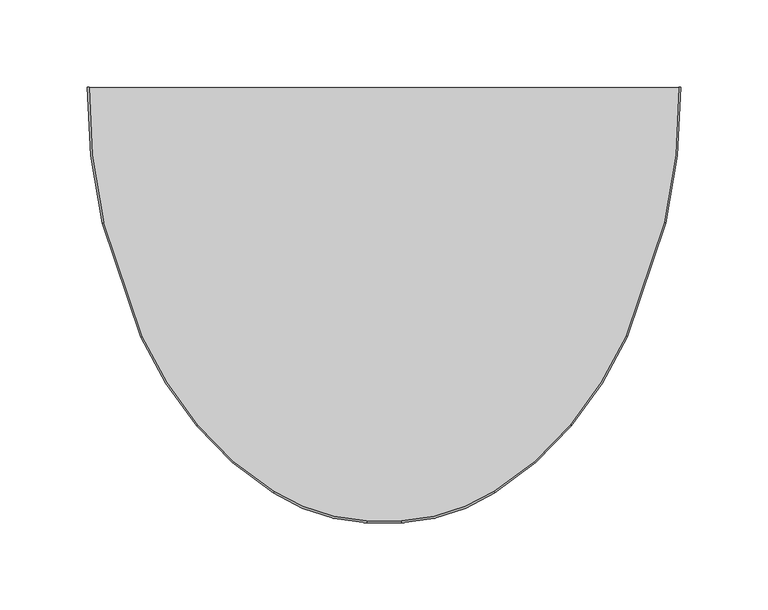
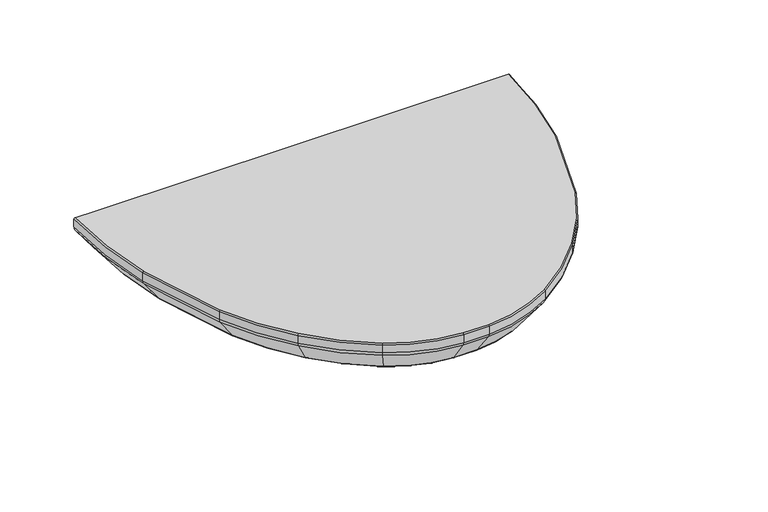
"""IFC4 building model written with IfcOpenShell, lengths in millimetres: furniture geometry, Couchette_1282 : Couchette_1282."""

from ifc_helpers import new_model, si_unit, point, frame, origin, place, context, project, spatial, polyline, circle_curve, ellipse_curve, trimmed, source, transform, mapped, element, save
from ifc_brep_helpers import plane_surface, cylinder_surface, revolved_surface, advanced_brep


def furniture_d83bdb64(model_context):
    return source(origin(), model_context, "Body", "AdvancedBrep", [
        advanced_brep(
        [(-169.9947602, 0.0, 222.7180464), (-169.9947602, 0.0, 229.0), (-168.99479, -0.0077199, 230.0), (-152.4498166, -0.1354493, 230.0), (-152.4498166, -0.1354493, 200.0), (-153.317766, -0.1287486, 200.0), (-154.9222264, -0.1163619, 200.8060346), (-169.0060602, -0.0076329, 219.7331328), (-161.4520377, -77.8736847, 222.7180464), (-161.4520377, -77.8736847, 229.0), (-160.4775222, -77.6493642, 230.0), (-138.4947355, -142.7877662, 230.0), (-106.639304, -193.598834, 230.0), (-63.0039631, -231.7793866, 230.0), (-9.9401412, -248.7217415, 230.0), (9.9401412, -248.7217415, 230.0), (63.0039631, -231.7793866, 230.0), (106.639304, -193.598834, 230.0), (138.4947355, -142.7877662, 230.0), (160.4775222, -77.6493642, 230.0), (168.99479, -0.0077199, 230.0), (152.4498166, -0.1354493, 230.0), (-139.4058951, -143.1998199, 222.7180464), (-139.4058951, -143.1998199, 229.0), (-107.4071798, -194.2394328, 222.7180464), (-107.4071798, -194.2394328, 229.0), (-63.5369544, -232.6255073, 222.7180464), (-63.5369544, -232.6255073, 229.0), (-9.9960841, -249.7201755, 222.7180464), (-9.9960841, -249.7201755, 229.0), (9.9960841, -249.7201755, 222.7180464), (9.9960841, -249.7201755, 229.0), (63.5369544, -232.6255073, 222.7180464), (63.5369544, -232.6255073, 229.0), (107.4071798, -194.2394328, 222.7180464), (107.4071798, -194.2394328, 229.0), (139.4058951, -143.1998199, 222.7180464), (139.4058951, -143.1998199, 229.0), (161.4520377, -77.8736847, 222.7180464), (161.4520377, -77.8736847, 229.0), (169.9947602, 0.0, 229.0), (169.9947602, 0.0, 222.7180464), (169.0060602, -0.0076329, 219.7331328), (154.9222264, -0.1163619, 200.8060346), (153.317766, -0.1287486, 200.0), (152.4498166, -0.1354493, 200.0), (145.199565, -74.1325823, 200.0), (124.2100391, -136.3277988, 200.0), (94.6009387, -183.5558518, 200.0), (54.6479976, -218.5143358, 200.0), (9.0630955, -233.0688018, 200.0), (-9.0630955, -233.0688018, 200.0), (-54.6479976, -218.5143358, 200.0), (-94.6009387, -183.5558518, 200.0), (-124.2100391, -136.3277988, 200.0), (-145.199565, -74.1325823, 200.0), (-146.7631831, -74.4925063, 200.8060346), (-160.4885055, -77.6518924, 219.7331328), (-125.6720021, -136.9889423, 200.8060346), (-138.5050048, -142.7924103, 219.7331328), (-95.8330017, -184.5836978, 200.8060346), (-106.6479584, -193.6060539, 219.7331328), (-55.5031865, -219.8719435, 200.8060346), (-63.0099702, -231.7889228, 219.7331328), (-9.1528565, -234.6707973, 200.8060346), (-9.9407717, -248.7329944, 219.7331328), (9.1528565, -234.6707973, 200.8060346), (9.9407717, -248.7329944, 219.7331328), (55.5031865, -219.8719435, 200.8060346), (63.0099702, -231.7889228, 219.7331328), (95.8330017, -184.5836978, 200.8060346), (106.6479584, -193.6060539, 219.7331328), (125.6720021, -136.9889423, 200.8060346), (138.5050048, -142.7924103, 219.7331328), (146.7631831, -74.4925063, 200.8060346), (160.4885055, -77.6518924, 219.7331328)],
        [
            (0, 1),
            (1, 2, circle_curve(frame((-168.99479, -0.0077199, 229.0), z_axis=(0.00771990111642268, 0.9999702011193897, 0.0), x_axis=(0.9999702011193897, -0.00771990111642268, 0.0)), 1.0)),
            (2, 3),
            (3, 4),
            (4, 5),
            (5, 6, circle_curve(frame((-153.317766, -0.1287486, 202.0), z_axis=(0.00771990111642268, 0.9999702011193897, 0.0), x_axis=(0.9999702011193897, -0.00771990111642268, 0.0)), 2.0)),
            (6, 7),
            (7, 0, circle_curve(frame((-164.9949092, -0.0385995, 222.7180464), z_axis=(0.00771990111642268, 0.9999702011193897, 0.0), x_axis=(0.9999702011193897, -0.00771990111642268, 0.0)), 5.0)),
            (0, 8, circle_curve(frame((165.5992993, -2.5908302, 222.7180464), z_axis=(0.0, 0.0, 1.0), x_axis=(-0.9999702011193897, 0.007719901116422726, 0.0)), 335.6040602)),
            (8, 9),
            (9, 1, circle_curve(frame((165.5992993, -2.5908302, 229.0), z_axis=(0.0, 0.0, -1.0), x_axis=(-0.9999702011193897, 0.007719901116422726, 0.0)), 335.6040602)),
            (9, 10, circle_curve(frame((-160.4775222, -77.6493642, 229.0), z_axis=(-0.22432045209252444, 0.9745154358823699, 0.0), x_axis=(0.9745154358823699, 0.22432045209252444, 0.0)), 1.0)),
            (10, 2, circle_curve(frame((165.5992993, -2.5908302, 230.0), z_axis=(0.0, 0.0, -1.0), x_axis=(-0.9999702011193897, 0.007719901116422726, 0.0)), 334.6040602)),
            (10, 11, circle_curve(frame((177.6532949, 0.1838388, 230.0), z_axis=(0.0, 0.0, 1.0), x_axis=(-0.97451543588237, -0.22432045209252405, 0.0)), 346.97328)),
            (11, 12, circle_curve(frame((64.0778814, -51.1783637, 230.0), z_axis=(0.0, 0.0, 1.0), x_axis=(-0.9111595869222, -0.41205364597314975, 0.0)), 222.3239703)),
            (12, 13, circle_curve(frame((36.011738, -74.5924877, 230.0), z_axis=(0.0, 0.0, 1.0), x_axis=(-0.767875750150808, -0.6405988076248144, 0.0)), 185.7735995)),
            (13, 14, circle_curve(frame((-3.7173984, -137.6622803, 230.0), z_axis=(0.0, 0.0, 1.0), x_axis=(-0.5329912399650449, -0.8461207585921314, 0.0)), 111.233657)),
            (14, 15, circle_curve(frame((0.0, -71.3165753, 230.0), z_axis=(0.0, 0.0, 1.0), x_axis=(-0.055942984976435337, -0.9984339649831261, 0.0)), 177.6834247)),
            (15, 16, circle_curve(frame((3.7173984, -137.6622803, 230.0), z_axis=(0.0, 0.0, 1.0), x_axis=(0.05594298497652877, -0.9984339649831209, 0.0)), 111.233657)),
            (16, 17, circle_curve(frame((-36.011738, -74.5924877, 230.0), z_axis=(0.0, 0.0, 1.0), x_axis=(0.5329912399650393, -0.846120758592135, 0.0)), 185.7735995)),
            (17, 18, circle_curve(frame((-64.0778814, -51.1783637, 230.0), z_axis=(0.0, 0.0, 1.0), x_axis=(0.767875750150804, -0.6405988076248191, 0.0)), 222.3239703)),
            (18, 19, circle_curve(frame((-177.6532949, 0.1838388, 230.0), z_axis=(0.0, 0.0, 1.0), x_axis=(0.9111595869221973, -0.41205364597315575, 0.0)), 346.97328)),
            (19, 20, circle_curve(frame((-165.5992993, -2.5908302, 230.0), z_axis=(0.0, 0.0, 1.0), x_axis=(0.9745154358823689, -0.22432045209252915, 0.0)), 334.6040602)),
            (20, 21),
            (21, 3),
            (8, 22, circle_curve(frame((177.6532949, 0.1838388, 222.7180464), z_axis=(0.0, 0.0, 1.0), x_axis=(-0.97451543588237, -0.22432045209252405, 0.0)), 347.97328)),
            (22, 23),
            (23, 9, circle_curve(frame((177.6532949, 0.1838388, 229.0), z_axis=(0.0, 0.0, -1.0), x_axis=(-0.97451543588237, -0.22432045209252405, 0.0)), 347.97328)),
            (23, 11, circle_curve(frame((-138.4947355, -142.7877662, 229.0), z_axis=(-0.41205364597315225, 0.9111595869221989, 0.0), x_axis=(0.9111595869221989, 0.41205364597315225, 0.0)), 1.0)),
            (22, 24, circle_curve(frame((64.0778814, -51.1783637, 222.7180464), z_axis=(0.0, 0.0, 1.0), x_axis=(-0.9111595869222, -0.41205364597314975, 0.0)), 223.3239703)),
            (24, 25),
            (25, 23, circle_curve(frame((64.0778814, -51.1783637, 229.0), z_axis=(0.0, 0.0, -1.0), x_axis=(-0.9111595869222, -0.41205364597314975, 0.0)), 223.3239703)),
            (25, 12, circle_curve(frame((-106.639304, -193.598834, 229.0), z_axis=(-0.6405988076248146, 0.7678757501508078, 0.0), x_axis=(0.7678757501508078, 0.6405988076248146, 0.0)), 1.0)),
            (24, 26, circle_curve(frame((36.011738, -74.5924877, 222.7180464), z_axis=(0.0, 0.0, 1.0), x_axis=(-0.767875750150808, -0.6405988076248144, 0.0)), 186.7735995)),
            (26, 27),
            (27, 25, circle_curve(frame((36.011738, -74.5924877, 229.0), z_axis=(0.0, 0.0, -1.0), x_axis=(-0.767875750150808, -0.6405988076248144, 0.0)), 186.7735995)),
            (27, 13, circle_curve(frame((-63.0039631, -231.7793866, 229.0), z_axis=(-0.8461207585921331, 0.5329912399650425, 0.0), x_axis=(0.5329912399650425, 0.8461207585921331, 0.0)), 1.0)),
            (26, 28, circle_curve(frame((-3.7173984, -137.6622803, 222.7180464), z_axis=(0.0, 0.0, 1.0), x_axis=(-0.5329912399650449, -0.8461207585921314, 0.0)), 112.233657)),
            (28, 29),
            (29, 27, circle_curve(frame((-3.7173984, -137.6622803, 229.0), z_axis=(0.0, 0.0, -1.0), x_axis=(-0.5329912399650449, -0.8461207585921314, 0.0)), 112.233657)),
            (29, 14, circle_curve(frame((-9.9401412, -248.7217415, 229.0), z_axis=(-0.9984339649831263, 0.055942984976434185, 0.0), x_axis=(0.055942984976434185, 0.9984339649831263, 0.0)), 1.0)),
            (28, 30, circle_curve(frame((0.0, -71.3165753, 222.7180464), z_axis=(0.0, 0.0, 1.0), x_axis=(-0.055942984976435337, -0.9984339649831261, 0.0)), 178.6834247)),
            (30, 31),
            (31, 29, circle_curve(frame((0.0, -71.3165753, 229.0), z_axis=(0.0, 0.0, -1.0), x_axis=(-0.055942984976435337, -0.9984339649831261, 0.0)), 178.6834247)),
            (31, 15, circle_curve(frame((9.9401412, -248.7217415, 229.0), z_axis=(-0.9984339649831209, -0.05594298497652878, 0.0), x_axis=(-0.05594298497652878, 0.9984339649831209, 0.0)), 1.0)),
            (30, 32, circle_curve(frame((3.7173984, -137.6622803, 222.7180464), z_axis=(0.0, 0.0, 1.0), x_axis=(0.05594298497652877, -0.9984339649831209, 0.0)), 112.233657)),
            (32, 33),
            (33, 31, circle_curve(frame((3.7173984, -137.6622803, 229.0), z_axis=(0.0, 0.0, -1.0), x_axis=(0.05594298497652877, -0.9984339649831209, 0.0)), 112.233657)),
            (33, 16, circle_curve(frame((63.0039631, -231.7793866, 229.0), z_axis=(-0.8461207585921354, -0.5329912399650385, 0.0), x_axis=(-0.5329912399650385, 0.8461207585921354, 0.0)), 1.0)),
            (32, 34, circle_curve(frame((-36.011738, -74.5924877, 222.7180464), z_axis=(0.0, 0.0, 1.0), x_axis=(0.5329912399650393, -0.846120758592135, 0.0)), 186.7735995)),
            (34, 35),
            (35, 33, circle_curve(frame((-36.011738, -74.5924877, 229.0), z_axis=(0.0, 0.0, -1.0), x_axis=(0.5329912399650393, -0.846120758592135, 0.0)), 186.7735995)),
            (35, 17, circle_curve(frame((106.639304, -193.598834, 229.0), z_axis=(-0.6405988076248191, -0.7678757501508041, 0.0), x_axis=(-0.7678757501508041, 0.6405988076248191, 0.0)), 1.0)),
            (34, 36, circle_curve(frame((-64.0778814, -51.1783637, 222.7180464), z_axis=(0.0, 0.0, 1.0), x_axis=(0.767875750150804, -0.6405988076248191, 0.0)), 223.3239703)),
            (36, 37),
            (37, 35, circle_curve(frame((-64.0778814, -51.1783637, 229.0), z_axis=(0.0, 0.0, -1.0), x_axis=(0.767875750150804, -0.6405988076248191, 0.0)), 223.3239703)),
            (37, 18, circle_curve(frame((138.4947355, -142.7877662, 229.0), z_axis=(-0.41205364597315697, -0.9111595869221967, 0.0), x_axis=(-0.9111595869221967, 0.41205364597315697, 0.0)), 1.0)),
            (36, 38, circle_curve(frame((-177.6532949, 0.1838388, 222.7180464), z_axis=(0.0, 0.0, 1.0), x_axis=(0.9111595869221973, -0.41205364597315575, 0.0)), 347.97328)),
            (38, 39),
            (39, 37, circle_curve(frame((-177.6532949, 0.1838388, 229.0), z_axis=(0.0, 0.0, -1.0), x_axis=(0.9111595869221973, -0.41205364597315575, 0.0)), 347.97328)),
            (39, 19, circle_curve(frame((160.4775222, -77.6493642, 229.0), z_axis=(-0.22432045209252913, -0.9745154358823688, 0.0), x_axis=(-0.9745154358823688, 0.22432045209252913, 0.0)), 1.0)),
            (20, 40, circle_curve(frame((168.99479, -0.0077199, 229.0), z_axis=(-0.007719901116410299, 0.9999702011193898, 0.0), x_axis=(-0.9999702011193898, -0.007719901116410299, 0.0)), 1.0)),
            (40, 41),
            (41, 42, circle_curve(frame((164.9949092, -0.0385995, 222.7180464), z_axis=(-0.007719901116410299, 0.9999702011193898, 0.0), x_axis=(-0.9999702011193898, -0.007719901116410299, 0.0)), 5.0)),
            (42, 43),
            (43, 44, circle_curve(frame((153.317766, -0.1287486, 202.0), z_axis=(-0.007719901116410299, 0.9999702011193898, 0.0), x_axis=(-0.9999702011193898, -0.007719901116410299, 0.0)), 2.0)),
            (44, 45),
            (45, 21),
            (38, 41, circle_curve(frame((-165.5992993, -2.5908302, 222.7180464), z_axis=(0.0, 0.0, 1.0), x_axis=(0.9745154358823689, -0.22432045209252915, 0.0)), 335.6040602)),
            (40, 39, circle_curve(frame((-165.5992993, -2.5908302, 229.0), z_axis=(0.0, 0.0, -1.0), x_axis=(0.9745154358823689, -0.22432045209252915, 0.0)), 335.6040602)),
            (4, 45),
            (44, 46, circle_curve(frame((-165.5992993, -2.5908302, 200.0), z_axis=(0.0, 0.0, -1.0), x_axis=(0.9745154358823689, -0.22432045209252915, 0.0)), 318.926569)),
            (46, 47, circle_curve(frame((-177.6532949, 0.1838388, 200.0), z_axis=(0.0, 0.0, -1.0), x_axis=(0.9111595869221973, -0.41205364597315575, 0.0)), 331.2957887)),
            (47, 48, circle_curve(frame((-64.0778814, -51.1783637, 200.0), z_axis=(0.0, 0.0, -1.0), x_axis=(0.767875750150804, -0.6405988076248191, 0.0)), 206.6464791)),
            (48, 49, circle_curve(frame((-36.011738, -74.5924877, 200.0), z_axis=(0.0, 0.0, -1.0), x_axis=(0.5329912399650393, -0.846120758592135, 0.0)), 170.0961082)),
            (49, 50, circle_curve(frame((3.7173984, -137.6622803, 200.0), z_axis=(0.0, 0.0, -1.0), x_axis=(0.05594298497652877, -0.9984339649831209, 0.0)), 95.5561658)),
            (50, 51, circle_curve(frame((0.0, -71.3165753, 200.0), z_axis=(0.0, 0.0, -1.0), x_axis=(-0.055942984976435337, -0.9984339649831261, 0.0)), 162.0059335)),
            (51, 52, circle_curve(frame((-3.7173984, -137.6622803, 200.0), z_axis=(0.0, 0.0, -1.0), x_axis=(-0.5329912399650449, -0.8461207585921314, 0.0)), 95.5561658)),
            (52, 53, circle_curve(frame((36.011738, -74.5924877, 200.0), z_axis=(0.0, 0.0, -1.0), x_axis=(-0.767875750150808, -0.6405988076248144, 0.0)), 170.0961082)),
            (53, 54, circle_curve(frame((64.0778814, -51.1783637, 200.0), z_axis=(0.0, 0.0, -1.0), x_axis=(-0.9111595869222, -0.41205364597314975, 0.0)), 206.6464791)),
            (54, 55, circle_curve(frame((177.6532949, 0.1838388, 200.0), z_axis=(0.0, 0.0, -1.0), x_axis=(-0.97451543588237, -0.22432045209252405, 0.0)), 331.2957887)),
            (55, 5, circle_curve(frame((165.5992993, -2.5908302, 200.0), z_axis=(0.0, 0.0, -1.0), x_axis=(-0.9999702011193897, 0.007719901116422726, 0.0)), 318.926569)),
            (55, 56, circle_curve(frame((-145.199565, -74.1325823, 202.0), z_axis=(-0.2243204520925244, 0.9745154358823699, 0.0), x_axis=(0.9745154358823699, 0.2243204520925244, 0.0)), 2.0)),
            (56, 6, circle_curve(frame((165.5992993, -2.5908302, 200.8060346), z_axis=(0.0, 0.0, -1.0), x_axis=(-0.9999702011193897, 0.007719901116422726, 0.0)), 320.5310772)),
            (56, 57),
            (57, 7, circle_curve(frame((165.5992993, -2.5908302, 219.7331328), z_axis=(0.0, 0.0, -1.0), x_axis=(-0.9999702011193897, 0.007719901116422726, 0.0)), 334.6153307)),
            (57, 8, circle_curve(frame((-156.5794605, -76.7520824, 222.7180464), z_axis=(-0.2243204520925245, 0.9745154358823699, 0.0), x_axis=(0.9745154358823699, 0.2243204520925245, 0.0)), 5.0)),
            (54, 58, circle_curve(frame((-124.2100391, -136.3277988, 202.0), z_axis=(-0.41205364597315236, 0.9111595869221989, 0.0), x_axis=(0.9111595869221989, 0.41205364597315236, 0.0)), 2.0)),
            (58, 56, circle_curve(frame((177.6532949, 0.1838388, 200.8060346), z_axis=(0.0, 0.0, -1.0), x_axis=(-0.97451543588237, -0.22432045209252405, 0.0)), 332.900297)),
            (58, 59),
            (59, 57, circle_curve(frame((177.6532949, 0.1838388, 219.7331328), z_axis=(0.0, 0.0, -1.0), x_axis=(-0.97451543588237, -0.22432045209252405, 0.0)), 346.9845505)),
            (59, 22, circle_curve(frame((-134.8500972, -141.1395517, 222.7180464), z_axis=(-0.4120536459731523, 0.9111595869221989, 0.0), x_axis=(0.9111595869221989, 0.4120536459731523, 0.0)), 5.0)),
            (53, 60, circle_curve(frame((-94.6009387, -183.5558518, 202.0), z_axis=(-0.6405988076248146, 0.7678757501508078, 0.0), x_axis=(0.7678757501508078, 0.6405988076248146, 0.0)), 2.0)),
            (60, 58, circle_curve(frame((64.0778814, -51.1783637, 200.8060346), z_axis=(0.0, 0.0, -1.0), x_axis=(-0.9111595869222, -0.41205364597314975, 0.0)), 208.2509873)),
            (60, 61),
            (61, 59, circle_curve(frame((64.0778814, -51.1783637, 219.7331328), z_axis=(0.0, 0.0, -1.0), x_axis=(-0.9111595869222, -0.41205364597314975, 0.0)), 222.3352409)),
            (61, 24, circle_curve(frame((-103.567801, -191.0364388, 222.7180464), z_axis=(-0.6405988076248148, 0.7678757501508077, 0.0), x_axis=(0.7678757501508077, 0.6405988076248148, 0.0)), 5.0)),
            (52, 62, circle_curve(frame((-54.6479976, -218.5143358, 202.0), z_axis=(-0.8461207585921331, 0.5329912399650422, 0.0), x_axis=(0.5329912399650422, 0.8461207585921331, 0.0)), 2.0)),
            (62, 60, circle_curve(frame((36.011738, -74.5924877, 200.8060346), z_axis=(0.0, 0.0, -1.0), x_axis=(-0.767875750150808, -0.6405988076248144, 0.0)), 171.7006164)),
            (62, 63),
            (63, 61, circle_curve(frame((36.011738, -74.5924877, 219.7331328), z_axis=(0.0, 0.0, -1.0), x_axis=(-0.767875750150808, -0.6405988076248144, 0.0)), 185.78487)),
            (63, 26, circle_curve(frame((-60.8719982, -228.3949035, 222.7180464), z_axis=(-0.8461207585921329, 0.5329912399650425, 0.0), x_axis=(0.5329912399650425, 0.8461207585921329, 0.0)), 5.0)),
            (51, 64, circle_curve(frame((-9.0630955, -233.0688018, 202.0), z_axis=(-0.9984339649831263, 0.055942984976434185, 0.0), x_axis=(0.055942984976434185, 0.9984339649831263, 0.0)), 2.0)),
            (64, 62, circle_curve(frame((-3.7173984, -137.6622803, 200.8060346), z_axis=(0.0, 0.0, -1.0), x_axis=(-0.5329912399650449, -0.8461207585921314, 0.0)), 97.160674)),
            (64, 65),
            (65, 63, circle_curve(frame((-3.7173984, -137.6622803, 219.7331328), z_axis=(0.0, 0.0, -1.0), x_axis=(-0.5329912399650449, -0.8461207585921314, 0.0)), 111.2449275)),
            (65, 28, circle_curve(frame((-9.7163692, -244.7280057, 222.7180464), z_axis=(-0.9984339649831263, 0.055942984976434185, 0.0), x_axis=(0.055942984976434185, 0.9984339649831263, 0.0)), 5.0)),
            (50, 66, circle_curve(frame((9.0630955, -233.0688018, 202.0), z_axis=(-0.9984339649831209, -0.05594298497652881, 0.0), x_axis=(-0.05594298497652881, 0.9984339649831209, 0.0)), 2.0)),
            (66, 64, circle_curve(frame((0.0, -71.3165753, 200.8060346), z_axis=(0.0, 0.0, -1.0), x_axis=(-0.055942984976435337, -0.9984339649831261, 0.0)), 163.6104417)),
            (66, 67),
            (67, 65, circle_curve(frame((0.0, -71.3165753, 219.7331328), z_axis=(0.0, 0.0, -1.0), x_axis=(-0.055942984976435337, -0.9984339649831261, 0.0)), 177.6946953)),
            (67, 30, circle_curve(frame((9.7163692, -244.7280057, 222.7180464), z_axis=(-0.9984339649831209, -0.055942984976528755, 0.0), x_axis=(-0.055942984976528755, 0.9984339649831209, 0.0)), 5.0)),
            (49, 68, circle_curve(frame((54.6479976, -218.5143358, 202.0), z_axis=(-0.8461207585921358, -0.5329912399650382, 0.0), x_axis=(-0.5329912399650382, 0.8461207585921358, 0.0)), 2.0)),
            (68, 66, circle_curve(frame((3.7173984, -137.6622803, 200.8060346), z_axis=(0.0, 0.0, -1.0), x_axis=(0.05594298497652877, -0.9984339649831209, 0.0)), 97.160674)),
            (68, 69),
            (69, 67, circle_curve(frame((3.7173984, -137.6622803, 219.7331328), z_axis=(0.0, 0.0, -1.0), x_axis=(0.05594298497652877, -0.9984339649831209, 0.0)), 111.2449275)),
            (69, 32, circle_curve(frame((60.8719982, -228.3949035, 222.7180464), z_axis=(-0.8461207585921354, -0.5329912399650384, 0.0), x_axis=(-0.5329912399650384, 0.8461207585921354, 0.0)), 5.0)),
            (48, 70, circle_curve(frame((94.6009387, -183.5558518, 202.0), z_axis=(-0.6405988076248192, -0.767875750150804, 0.0), x_axis=(-0.767875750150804, 0.6405988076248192, 0.0)), 2.0)),
            (70, 68, circle_curve(frame((-36.011738, -74.5924877, 200.8060346), z_axis=(0.0, 0.0, -1.0), x_axis=(0.5329912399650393, -0.846120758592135, 0.0)), 171.7006164)),
            (70, 71),
            (71, 69, circle_curve(frame((-36.011738, -74.5924877, 219.7331328), z_axis=(0.0, 0.0, -1.0), x_axis=(0.5329912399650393, -0.846120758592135, 0.0)), 185.78487)),
            (71, 34, circle_curve(frame((103.567801, -191.0364388, 222.7180464), z_axis=(-0.640598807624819, -0.767875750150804, 0.0), x_axis=(-0.767875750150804, 0.640598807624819, 0.0)), 5.0)),
            (47, 72, circle_curve(frame((124.2100391, -136.3277988, 202.0), z_axis=(-0.4120536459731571, -0.9111595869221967, 0.0), x_axis=(-0.9111595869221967, 0.4120536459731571, 0.0)), 2.0)),
            (72, 70, circle_curve(frame((-64.0778814, -51.1783637, 200.8060346), z_axis=(0.0, 0.0, -1.0), x_axis=(0.767875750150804, -0.6405988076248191, 0.0)), 208.2509873)),
            (72, 73),
            (73, 71, circle_curve(frame((-64.0778814, -51.1783637, 219.7331328), z_axis=(0.0, 0.0, -1.0), x_axis=(0.767875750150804, -0.6405988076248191, 0.0)), 222.3352409)),
            (73, 36, circle_curve(frame((134.8500972, -141.1395517, 222.7180464), z_axis=(-0.41205364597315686, -0.9111595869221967, 0.0), x_axis=(-0.9111595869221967, 0.41205364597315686, 0.0)), 5.0)),
            (46, 74, circle_curve(frame((145.199565, -74.1325823, 202.0), z_axis=(-0.22432045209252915, -0.9745154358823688, 0.0), x_axis=(-0.9745154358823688, 0.22432045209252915, 0.0)), 2.0)),
            (74, 72, circle_curve(frame((-177.6532949, 0.1838388, 200.8060346), z_axis=(0.0, 0.0, -1.0), x_axis=(0.9111595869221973, -0.41205364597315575, 0.0)), 332.900297)),
            (74, 75),
            (75, 73, circle_curve(frame((-177.6532949, 0.1838388, 219.7331328), z_axis=(0.0, 0.0, -1.0), x_axis=(0.9111595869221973, -0.41205364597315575, 0.0)), 346.9845505)),
            (75, 38, circle_curve(frame((156.5794605, -76.7520824, 222.7180464), z_axis=(-0.22432045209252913, -0.9745154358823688, 0.0), x_axis=(-0.9745154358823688, 0.22432045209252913, 0.0)), 5.0)),
            (43, 74, circle_curve(frame((-165.5992993, -2.5908302, 200.8060346), z_axis=(0.0, 0.0, -1.0), x_axis=(0.9745154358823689, -0.22432045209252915, 0.0)), 320.5310772)),
            (42, 75, circle_curve(frame((-165.5992993, -2.5908302, 219.7331328), z_axis=(0.0, 0.0, -1.0), x_axis=(0.9745154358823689, -0.22432045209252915, 0.0)), 334.6153307)),
        ],
        [
            plane_surface(frame((-169.9947602, 0.0, 230.0), z_axis=(0.00771990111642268, 0.9999702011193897, 0.0), x_axis=(0.0, 0.0, 1.0))),
            cylinder_surface(frame((165.5992993, -2.5908302, 230.0), z_axis=(0.0, 0.0, 1.0), x_axis=(-0.9999702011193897, 0.007719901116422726, 0.0)), 335.6040602),
            revolved_surface(trimmed(ellipse_curve(frame((-168.99479, -0.0077199, 229.0), z_axis=(0.00771990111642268, 0.9999702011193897, 0.0), x_axis=(0.9999702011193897, -0.00771990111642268, 0.0)), 1.0, 1.0), [point((-169.9947602, 0.0, 229.0))], [point((-168.99479, -0.0077199, 230.0))], True, "CARTESIAN"), (165.5992993, -2.5908302, 230.0), (0.0, 0.0, 1.0)),
            plane_surface(frame((165.5992993, -2.5908302, 230.0), z_axis=(0.0, 0.0, 1.0), x_axis=(-0.9999702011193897, 0.007719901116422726, 0.0))),
            cylinder_surface(frame((177.6532949, 0.1838388, 230.0), z_axis=(0.0, 0.0, 1.0), x_axis=(-0.97451543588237, -0.22432045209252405, 0.0)), 347.97328),
            revolved_surface(trimmed(ellipse_curve(frame((-160.4775222, -77.6493642, 229.0), z_axis=(-0.22432045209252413, 0.97451543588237, 0.0), x_axis=(0.97451543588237, 0.22432045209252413, 0.0)), 1.0, 1.0), [point((-161.4520377, -77.8736847, 229.0))], [point((-160.4775222, -77.6493642, 230.0))], True, "CARTESIAN"), (177.6532949, 0.1838388, 230.0), (0.0, 0.0, 1.0)),
            cylinder_surface(frame((64.0778814, -51.1783637, 230.0), z_axis=(0.0, 0.0, 1.0), x_axis=(-0.9111595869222, -0.41205364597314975, 0.0)), 223.3239703),
            revolved_surface(trimmed(ellipse_curve(frame((-138.4947355, -142.7877662, 229.0), z_axis=(-0.4120536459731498, 0.9111595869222, 0.0), x_axis=(0.9111595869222, 0.4120536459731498, 0.0)), 1.0, 1.0), [point((-139.4058951, -143.1998199, 229.0))], [point((-138.4947355, -142.7877662, 230.0))], True, "CARTESIAN"), (64.0778814, -51.1783637, 230.0), (0.0, 0.0, 1.0)),
            cylinder_surface(frame((36.011738, -74.5924877, 230.0), z_axis=(0.0, 0.0, 1.0), x_axis=(-0.767875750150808, -0.6405988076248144, 0.0)), 186.7735995),
            revolved_surface(trimmed(ellipse_curve(frame((-106.639304, -193.598834, 229.0), z_axis=(-0.6405988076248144, 0.767875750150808, 0.0), x_axis=(0.767875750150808, 0.6405988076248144, 0.0)), 1.0, 1.0), [point((-107.4071798, -194.2394328, 229.0))], [point((-106.639304, -193.598834, 230.0))], True, "CARTESIAN"), (36.011738, -74.5924877, 230.0), (0.0, 0.0, 1.0)),
            cylinder_surface(frame((-3.7173984, -137.6622803, 230.0), z_axis=(0.0, 0.0, 1.0), x_axis=(-0.5329912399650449, -0.8461207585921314, 0.0)), 112.233657),
            revolved_surface(trimmed(ellipse_curve(frame((-63.0039631, -231.7793866, 229.0), z_axis=(-0.8461207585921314, 0.5329912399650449, 0.0), x_axis=(0.5329912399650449, 0.8461207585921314, 0.0)), 1.0, 1.0), [point((-63.5369544, -232.6255073, 229.0))], [point((-63.0039631, -231.7793866, 230.0))], True, "CARTESIAN"), (-3.7173984, -137.6622803, 230.0), (0.0, 0.0, 1.0)),
            cylinder_surface(frame((0.0, -71.3165753, 230.0), z_axis=(0.0, 0.0, 1.0), x_axis=(-0.055942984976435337, -0.9984339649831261, 0.0)), 178.6834247),
            revolved_surface(trimmed(ellipse_curve(frame((-9.9401412, -248.7217415, 229.0), z_axis=(-0.9984339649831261, 0.055942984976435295, 0.0), x_axis=(0.055942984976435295, 0.9984339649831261, 0.0)), 1.0, 1.0), [point((-9.9960841, -249.7201755, 229.0))], [point((-9.9401412, -248.7217415, 230.0))], True, "CARTESIAN"), (0.0, -71.3165753, 230.0), (0.0, 0.0, 1.0)),
            cylinder_surface(frame((3.7173984, -137.6622803, 230.0), z_axis=(0.0, 0.0, 1.0), x_axis=(0.05594298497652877, -0.9984339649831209, 0.0)), 112.233657),
            revolved_surface(trimmed(ellipse_curve(frame((9.9401412, -248.7217415, 229.0), z_axis=(-0.9984339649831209, -0.05594298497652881, 0.0), x_axis=(-0.05594298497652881, 0.9984339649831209, 0.0)), 1.0, 1.0), [point((9.9960841, -249.7201755, 229.0))], [point((9.9401412, -248.7217415, 230.0))], True, "CARTESIAN"), (3.7173984, -137.6622803, 230.0), (0.0, 0.0, 1.0)),
            cylinder_surface(frame((-36.011738, -74.5924877, 230.0), z_axis=(0.0, 0.0, 1.0), x_axis=(0.5329912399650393, -0.846120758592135, 0.0)), 186.7735995),
            revolved_surface(trimmed(ellipse_curve(frame((63.0039631, -231.7793866, 229.0), z_axis=(-0.846120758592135, -0.5329912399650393, 0.0), x_axis=(-0.5329912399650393, 0.846120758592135, 0.0)), 1.0, 1.0), [point((63.5369544, -232.6255073, 229.0))], [point((63.0039631, -231.7793866, 230.0))], True, "CARTESIAN"), (-36.011738, -74.5924877, 230.0), (0.0, 0.0, 1.0)),
            cylinder_surface(frame((-64.0778814, -51.1783637, 230.0), z_axis=(0.0, 0.0, 1.0), x_axis=(0.767875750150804, -0.6405988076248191, 0.0)), 223.3239703),
            revolved_surface(trimmed(ellipse_curve(frame((106.639304, -193.598834, 229.0), z_axis=(-0.6405988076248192, -0.7678757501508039, 0.0), x_axis=(-0.7678757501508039, 0.6405988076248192, 0.0)), 1.0, 1.0), [point((107.4071798, -194.2394328, 229.0))], [point((106.639304, -193.598834, 230.0))], True, "CARTESIAN"), (-64.0778814, -51.1783637, 230.0), (0.0, 0.0, 1.0)),
            cylinder_surface(frame((-177.6532949, 0.1838388, 230.0), z_axis=(0.0, 0.0, 1.0), x_axis=(0.9111595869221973, -0.41205364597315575, 0.0)), 347.97328),
            revolved_surface(trimmed(ellipse_curve(frame((138.4947355, -142.7877662, 229.0), z_axis=(-0.41205364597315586, -0.9111595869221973, 0.0), x_axis=(-0.9111595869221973, 0.41205364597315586, 0.0)), 1.0, 1.0), [point((139.4058951, -143.1998199, 229.0))], [point((138.4947355, -142.7877662, 230.0))], True, "CARTESIAN"), (-177.6532949, 0.1838388, 230.0), (0.0, 0.0, 1.0)),
            plane_surface(frame((169.9947602, 0.0, 230.0), z_axis=(-0.007719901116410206, 0.9999702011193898, 0.0), x_axis=(0.0, 0.0, 1.0))),
            cylinder_surface(frame((-165.5992993, -2.5908302, 230.0), z_axis=(0.0, 0.0, 1.0), x_axis=(0.9745154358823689, -0.22432045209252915, 0.0)), 335.6040602),
            revolved_surface(trimmed(ellipse_curve(frame((160.4775222, -77.6493642, 229.0), z_axis=(-0.22432045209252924, -0.9745154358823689, 0.0), x_axis=(-0.9745154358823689, 0.22432045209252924, 0.0)), 1.0, 1.0), [point((161.4520377, -77.8736847, 229.0))], [point((160.4775222, -77.6493642, 230.0))], True, "CARTESIAN"), (-165.5992993, -2.5908302, 230.0), (0.0, 0.0, 1.0)),
            plane_surface(frame((165.5992993, -2.5908302, 200.0), z_axis=(0.0, 0.0, -1.0), x_axis=(-0.9999702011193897, 0.007719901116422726, 0.0))),
            revolved_surface(trimmed(ellipse_curve(frame((-153.317766, -0.1287486, 202.0), z_axis=(0.00771990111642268, 0.9999702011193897, 0.0), x_axis=(0.9999702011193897, -0.00771990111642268, 0.0)), 2.0, 2.0), [point((-153.317766, -0.1287486, 200.0))], [point((-154.9222264, -0.1163619, 200.8060346))], True, "CARTESIAN"), (165.5992993, -2.5908302, 230.0), (0.0, 0.0, 1.0)),
            revolved_surface(polyline([(-154.9222264, -0.1163619, 200.8060346), (-169.0060602, -0.0076329, 219.7331328)]), (165.5992993, -2.5908302, 230.0), (0.0, 0.0, 1.0)),
            revolved_surface(trimmed(ellipse_curve(frame((-164.9949092, -0.0385995, 222.7180464), z_axis=(0.00771990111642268, 0.9999702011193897, 0.0), x_axis=(0.9999702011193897, -0.00771990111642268, 0.0)), 5.0, 5.0), [point((-169.0060602, -0.0076329, 219.7331328))], [point((-169.9947602, 0.0, 222.7180464))], True, "CARTESIAN"), (165.5992993, -2.5908302, 230.0), (0.0, 0.0, 1.0)),
            revolved_surface(trimmed(ellipse_curve(frame((-145.199565, -74.1325823, 202.0), z_axis=(-0.22432045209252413, 0.97451543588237, 0.0), x_axis=(0.97451543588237, 0.22432045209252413, 0.0)), 2.0, 2.0), [point((-145.199565, -74.1325823, 200.0))], [point((-146.7631831, -74.4925063, 200.8060346))], True, "CARTESIAN"), (177.6532949, 0.1838388, 230.0), (0.0, 0.0, 1.0)),
            revolved_surface(polyline([(-146.7631831, -74.4925063, 200.8060346), (-160.4885055, -77.6518924, 219.7331328)]), (177.6532949, 0.1838388, 230.0), (0.0, 0.0, 1.0)),
            revolved_surface(trimmed(ellipse_curve(frame((-156.5794605, -76.7520824, 222.7180464), z_axis=(-0.22432045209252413, 0.97451543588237, 0.0), x_axis=(0.97451543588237, 0.22432045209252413, 0.0)), 5.0, 5.0), [point((-160.4885055, -77.6518924, 219.7331328))], [point((-161.4520377, -77.8736847, 222.7180464))], True, "CARTESIAN"), (177.6532949, 0.1838388, 230.0), (0.0, 0.0, 1.0)),
            revolved_surface(trimmed(ellipse_curve(frame((-124.2100391, -136.3277988, 202.0), z_axis=(-0.4120536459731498, 0.9111595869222, 0.0), x_axis=(0.9111595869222, 0.4120536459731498, 0.0)), 2.0, 2.0), [point((-124.2100391, -136.3277988, 200.0))], [point((-125.6720021, -136.9889423, 200.8060346))], True, "CARTESIAN"), (64.0778814, -51.1783637, 230.0), (0.0, 0.0, 1.0)),
            revolved_surface(polyline([(-125.6720021, -136.9889423, 200.8060346), (-138.5050048, -142.7924103, 219.7331328)]), (64.0778814, -51.1783637, 230.0), (0.0, 0.0, 1.0)),
            revolved_surface(trimmed(ellipse_curve(frame((-134.8500972, -141.1395517, 222.7180464), z_axis=(-0.4120536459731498, 0.9111595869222, 0.0), x_axis=(0.9111595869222, 0.4120536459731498, 0.0)), 5.0, 5.0), [point((-138.5050048, -142.7924103, 219.7331328))], [point((-139.4058951, -143.1998199, 222.7180464))], True, "CARTESIAN"), (64.0778814, -51.1783637, 230.0), (0.0, 0.0, 1.0)),
            revolved_surface(trimmed(ellipse_curve(frame((-94.6009387, -183.5558518, 202.0), z_axis=(-0.6405988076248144, 0.767875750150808, 0.0), x_axis=(0.767875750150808, 0.6405988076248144, 0.0)), 2.0, 2.0), [point((-94.6009387, -183.5558518, 200.0))], [point((-95.8330017, -184.5836978, 200.8060346))], True, "CARTESIAN"), (36.011738, -74.5924877, 230.0), (0.0, 0.0, 1.0)),
            revolved_surface(polyline([(-95.8330017, -184.5836978, 200.8060346), (-106.6479584, -193.6060539, 219.7331328)]), (36.011738, -74.5924877, 230.0), (0.0, 0.0, 1.0)),
            revolved_surface(trimmed(ellipse_curve(frame((-103.567801, -191.0364388, 222.7180464), z_axis=(-0.6405988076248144, 0.767875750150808, 0.0), x_axis=(0.767875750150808, 0.6405988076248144, 0.0)), 5.0, 5.0), [point((-106.6479584, -193.6060539, 219.7331328))], [point((-107.4071798, -194.2394328, 222.7180464))], True, "CARTESIAN"), (36.011738, -74.5924877, 230.0), (0.0, 0.0, 1.0)),
            revolved_surface(trimmed(ellipse_curve(frame((-54.6479976, -218.5143358, 202.0), z_axis=(-0.8461207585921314, 0.5329912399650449, 0.0), x_axis=(0.5329912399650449, 0.8461207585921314, 0.0)), 2.0, 2.0), [point((-54.6479976, -218.5143358, 200.0))], [point((-55.5031865, -219.8719435, 200.8060346))], True, "CARTESIAN"), (-3.7173984, -137.6622803, 230.0), (0.0, 0.0, 1.0)),
            revolved_surface(polyline([(-55.5031865, -219.8719435, 200.8060346), (-63.0099702, -231.7889228, 219.7331328)]), (-3.7173984, -137.6622803, 230.0), (0.0, 0.0, 1.0)),
            revolved_surface(trimmed(ellipse_curve(frame((-60.8719982, -228.3949035, 222.7180464), z_axis=(-0.8461207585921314, 0.5329912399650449, 0.0), x_axis=(0.5329912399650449, 0.8461207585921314, 0.0)), 5.0, 5.0), [point((-63.0099702, -231.7889228, 219.7331328))], [point((-63.5369544, -232.6255073, 222.7180464))], True, "CARTESIAN"), (-3.7173984, -137.6622803, 230.0), (0.0, 0.0, 1.0)),
            revolved_surface(trimmed(ellipse_curve(frame((-9.0630955, -233.0688018, 202.0), z_axis=(-0.9984339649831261, 0.055942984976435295, 0.0), x_axis=(0.055942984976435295, 0.9984339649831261, 0.0)), 2.0, 2.0), [point((-9.0630955, -233.0688018, 200.0))], [point((-9.1528565, -234.6707973, 200.8060346))], True, "CARTESIAN"), (0.0, -71.3165753, 230.0), (0.0, 0.0, 1.0)),
            revolved_surface(polyline([(-9.1528565, -234.6707973, 200.8060346), (-9.9407717, -248.7329944, 219.7331328)]), (0.0, -71.3165753, 230.0), (0.0, 0.0, 1.0)),
            revolved_surface(trimmed(ellipse_curve(frame((-9.7163692, -244.7280057, 222.7180464), z_axis=(-0.9984339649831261, 0.055942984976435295, 0.0), x_axis=(0.055942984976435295, 0.9984339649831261, 0.0)), 5.0, 5.0), [point((-9.9407717, -248.7329944, 219.7331328))], [point((-9.9960841, -249.7201755, 222.7180464))], True, "CARTESIAN"), (0.0, -71.3165753, 230.0), (0.0, 0.0, 1.0)),
            revolved_surface(trimmed(ellipse_curve(frame((9.0630955, -233.0688018, 202.0), z_axis=(-0.9984339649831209, -0.05594298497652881, 0.0), x_axis=(-0.05594298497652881, 0.9984339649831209, 0.0)), 2.0, 2.0), [point((9.0630955, -233.0688018, 200.0))], [point((9.1528565, -234.6707973, 200.8060346))], True, "CARTESIAN"), (3.7173984, -137.6622803, 230.0), (0.0, 0.0, 1.0)),
            revolved_surface(polyline([(9.1528565, -234.6707973, 200.8060346), (9.9407717, -248.7329944, 219.7331328)]), (3.7173984, -137.6622803, 230.0), (0.0, 0.0, 1.0)),
            revolved_surface(trimmed(ellipse_curve(frame((9.7163692, -244.7280057, 222.7180464), z_axis=(-0.9984339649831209, -0.05594298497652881, 0.0), x_axis=(-0.05594298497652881, 0.9984339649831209, 0.0)), 5.0, 5.0), [point((9.9407717, -248.7329944, 219.7331328))], [point((9.9960841, -249.7201755, 222.7180464))], True, "CARTESIAN"), (3.7173984, -137.6622803, 230.0), (0.0, 0.0, 1.0)),
            revolved_surface(trimmed(ellipse_curve(frame((54.6479976, -218.5143358, 202.0), z_axis=(-0.846120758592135, -0.5329912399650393, 0.0), x_axis=(-0.5329912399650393, 0.846120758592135, 0.0)), 2.0, 2.0), [point((54.6479976, -218.5143358, 200.0))], [point((55.5031865, -219.8719435, 200.8060346))], True, "CARTESIAN"), (-36.011738, -74.5924877, 230.0), (0.0, 0.0, 1.0)),
            revolved_surface(polyline([(55.5031865, -219.8719435, 200.8060346), (63.0099702, -231.7889228, 219.7331328)]), (-36.011738, -74.5924877, 230.0), (0.0, 0.0, 1.0)),
            revolved_surface(trimmed(ellipse_curve(frame((60.8719982, -228.3949035, 222.7180464), z_axis=(-0.846120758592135, -0.5329912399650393, 0.0), x_axis=(-0.5329912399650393, 0.846120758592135, 0.0)), 5.0, 5.0), [point((63.0099702, -231.7889228, 219.7331328))], [point((63.5369544, -232.6255073, 222.7180464))], True, "CARTESIAN"), (-36.011738, -74.5924877, 230.0), (0.0, 0.0, 1.0)),
            revolved_surface(trimmed(ellipse_curve(frame((94.6009387, -183.5558518, 202.0), z_axis=(-0.6405988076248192, -0.7678757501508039, 0.0), x_axis=(-0.7678757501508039, 0.6405988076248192, 0.0)), 2.0, 2.0), [point((94.6009387, -183.5558518, 200.0))], [point((95.8330017, -184.5836978, 200.8060346))], True, "CARTESIAN"), (-64.0778814, -51.1783637, 230.0), (0.0, 0.0, 1.0)),
            revolved_surface(polyline([(95.8330017, -184.5836978, 200.8060346), (106.6479584, -193.6060539, 219.7331328)]), (-64.0778814, -51.1783637, 230.0), (0.0, 0.0, 1.0)),
            revolved_surface(trimmed(ellipse_curve(frame((103.567801, -191.0364388, 222.7180464), z_axis=(-0.6405988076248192, -0.7678757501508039, 0.0), x_axis=(-0.7678757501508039, 0.6405988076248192, 0.0)), 5.0, 5.0), [point((106.6479584, -193.6060539, 219.7331328))], [point((107.4071798, -194.2394328, 222.7180464))], True, "CARTESIAN"), (-64.0778814, -51.1783637, 230.0), (0.0, 0.0, 1.0)),
            revolved_surface(trimmed(ellipse_curve(frame((124.2100391, -136.3277988, 202.0), z_axis=(-0.41205364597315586, -0.9111595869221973, 0.0), x_axis=(-0.9111595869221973, 0.41205364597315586, 0.0)), 2.0, 2.0), [point((124.2100391, -136.3277988, 200.0))], [point((125.6720021, -136.9889423, 200.8060346))], True, "CARTESIAN"), (-177.6532949, 0.1838388, 230.0), (0.0, 0.0, 1.0)),
            revolved_surface(polyline([(125.6720021, -136.9889423, 200.8060346), (138.5050048, -142.7924103, 219.7331328)]), (-177.6532949, 0.1838388, 230.0), (0.0, 0.0, 1.0)),
            revolved_surface(trimmed(ellipse_curve(frame((134.8500972, -141.1395517, 222.7180464), z_axis=(-0.41205364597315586, -0.9111595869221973, 0.0), x_axis=(-0.9111595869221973, 0.41205364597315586, 0.0)), 5.0, 5.0), [point((138.5050048, -142.7924103, 219.7331328))], [point((139.4058951, -143.1998199, 222.7180464))], True, "CARTESIAN"), (-177.6532949, 0.1838388, 230.0), (0.0, 0.0, 1.0)),
            revolved_surface(trimmed(ellipse_curve(frame((145.199565, -74.1325823, 202.0), z_axis=(-0.22432045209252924, -0.9745154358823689, 0.0), x_axis=(-0.9745154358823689, 0.22432045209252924, 0.0)), 2.0, 2.0), [point((145.199565, -74.1325823, 200.0))], [point((146.7631831, -74.4925063, 200.8060346))], True, "CARTESIAN"), (-165.5992993, -2.5908302, 230.0), (0.0, 0.0, 1.0)),
            revolved_surface(polyline([(146.7631831, -74.4925063, 200.8060346), (160.4885055, -77.6518924, 219.7331328)]), (-165.5992993, -2.5908302, 230.0), (0.0, 0.0, 1.0)),
            revolved_surface(trimmed(ellipse_curve(frame((156.5794605, -76.7520824, 222.7180464), z_axis=(-0.22432045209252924, -0.9745154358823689, 0.0), x_axis=(-0.9745154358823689, 0.22432045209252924, 0.0)), 5.0, 5.0), [point((160.4885055, -77.6518924, 219.7331328))], [point((161.4520377, -77.8736847, 222.7180464))], True, "CARTESIAN"), (-165.5992993, -2.5908302, 230.0), (0.0, 0.0, 1.0)),
            plane_surface(frame((152.4498166, -0.1354493, 230.0), z_axis=(0.0, 1.0, 0.0), x_axis=(0.0, 0.0, -1.0))),
        ],
        [
            (0, [[1, 2, 3, 4, 5, 6, 7, 8]]),
            (1, [[-1, 9, 10, 11]]),
            (2, [[-2, -11, 12, 13]]),
            (3, [[-3, -13, 14, 15, 16, 17, 18, 19, 20, 21, 22, 23, 24, 25]]),
            (4, [[-10, 26, 27, 28]]),
            (5, [[-12, -28, 29, -14]]),
            (6, [[-27, 30, 31, 32]]),
            (7, [[-15, -29, -32, 33]]),
            (8, [[-31, 34, 35, 36]]),
            (9, [[-16, -33, -36, 37]]),
            (10, [[-35, 38, 39, 40]]),
            (11, [[-17, -37, -40, 41]]),
            (12, [[-39, 42, 43, 44]]),
            (13, [[-18, -41, -44, 45]]),
            (14, [[-43, 46, 47, 48]]),
            (15, [[-19, -45, -48, 49]]),
            (16, [[-47, 50, 51, 52]]),
            (17, [[-20, -49, -52, 53]]),
            (18, [[-51, 54, 55, 56]]),
            (19, [[-21, -53, -56, 57]]),
            (20, [[-55, 58, 59, 60]]),
            (21, [[-22, -57, -60, 61]]),
            (22, [[-24, 62, 63, 64, 65, 66, 67, 68]]),
            (23, [[-59, 69, -63, 70]]),
            (24, [[-23, -61, -70, -62]]),
            (25, [[-5, 71, -67, 72, 73, 74, 75, 76, 77, 78, 79, 80, 81, 82]]),
            (26, [[-6, -82, 83, 84]]),
            (27, [[-7, -84, 85, 86]]),
            (28, [[-8, -86, 87, -9]]),
            (29, [[-81, 88, 89, -83]]),
            (30, [[-85, -89, 90, 91]]),
            (31, [[-26, -87, -91, 92]]),
            (32, [[-80, 93, 94, -88]]),
            (33, [[-90, -94, 95, 96]]),
            (34, [[-30, -92, -96, 97]]),
            (35, [[-79, 98, 99, -93]]),
            (36, [[-95, -99, 100, 101]]),
            (37, [[-34, -97, -101, 102]]),
            (38, [[-78, 103, 104, -98]]),
            (39, [[-100, -104, 105, 106]]),
            (40, [[-38, -102, -106, 107]]),
            (41, [[-77, 108, 109, -103]]),
            (42, [[-105, -109, 110, 111]]),
            (43, [[-42, -107, -111, 112]]),
            (44, [[-76, 113, 114, -108]]),
            (45, [[-110, -114, 115, 116]]),
            (46, [[-46, -112, -116, 117]]),
            (47, [[-75, 118, 119, -113]]),
            (48, [[-115, -119, 120, 121]]),
            (49, [[-50, -117, -121, 122]]),
            (50, [[-74, 123, 124, -118]]),
            (51, [[-120, -124, 125, 126]]),
            (52, [[-54, -122, -126, 127]]),
            (53, [[-73, 128, 129, -123]]),
            (54, [[-125, -129, 130, 131]]),
            (55, [[-58, -127, -131, 132]]),
            (56, [[-66, 133, -128, -72]]),
            (57, [[-65, 134, -130, -133]]),
            (58, [[-64, -69, -132, -134]]),
            (59, [[-71, -4, -25, -68]]),
        ],
    ),
    ])


if __name__ == "__main__":
    model = new_model("IFC4")
    model_context = context("Model", 3, world=origin())
    ifc_project = project(units=[si_unit("LENGTHUNIT", "METRE", prefix="MILLI")], contexts=[model_context])
    site = spatial("IfcSite", under=ifc_project)
    building = spatial("IfcBuilding", under=site)
    placement = place(None, origin())
    furniture_shape = furniture_d83bdb64(model_context)
    element("IfcFurniture", 1, ObjectType="Couchette_1282 : Couchette_1282", at=placement, inside=building, context=model_context, shape_type="MappedRepresentation", body=[
        mapped(furniture_shape, transform((0.0, 0.0, 0.0), x_axis=(1.0, 0.0, 0.0), y_axis=(0.0, 1.0, 0.0), z_axis=(0.0, 0.0, 1.0))),
    ])
    save(model, "model.ifc")
